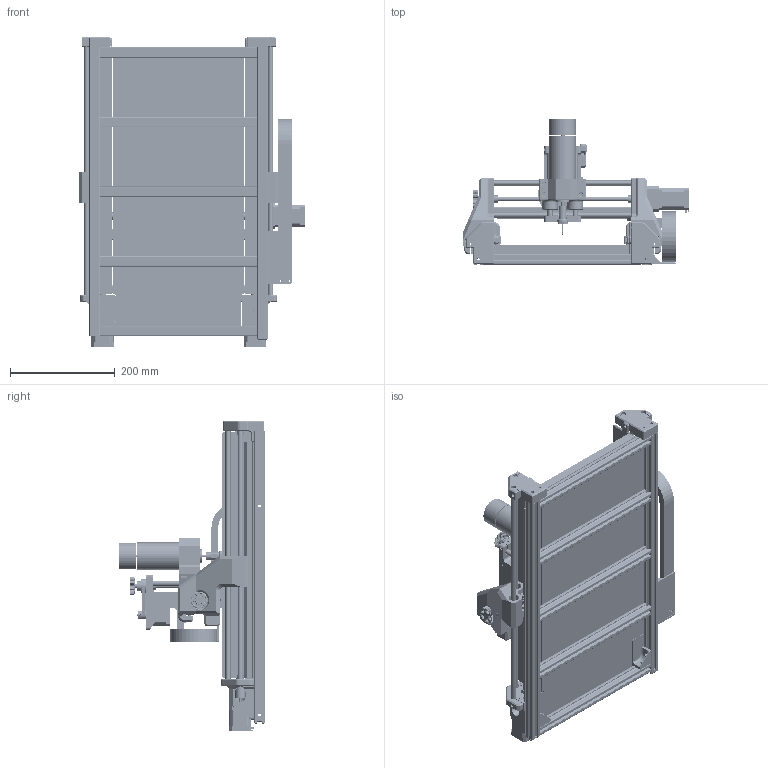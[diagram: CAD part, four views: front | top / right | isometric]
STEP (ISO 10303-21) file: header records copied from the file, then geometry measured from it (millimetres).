
FILE_DESCRIPTION (( 'STEP AP214' ), '1' );
FILE_NAME ('DIY_CNC.STEP', '2022-02-04T21:55:49', ( '' ), ( '' ), 'SwSTEP 2.0', 'SolidWorks 2020', '' );
FILE_SCHEMA (( 'AUTOMOTIVE_DESIGN' ));
Length unit declared in the file: millimetre
Products named in the file (1): DIY_CNC
Bounding box: 431 x 277 x 591 mm (x, y, z)
Volume: 6093790.7 mm3; surface area: 1835111 mm2
Topology: 105 solids, 105 shells, 7583 faces, 19869 edges, 12712 vertices
Faces by surface type: plane 3740, cylinder 2450, bspline 561, cone 555, torus 253, sphere 24
Entity records: 298023 total; most frequent: CARTESIAN_POINT 101718, ORIENTED_EDGE 39650, DIRECTION 35774, EDGE_CURVE 19825, VERTEX_POINT 12712, AXIS2_PLACEMENT_3D 12065, VECTOR 11644, LINE 11644
